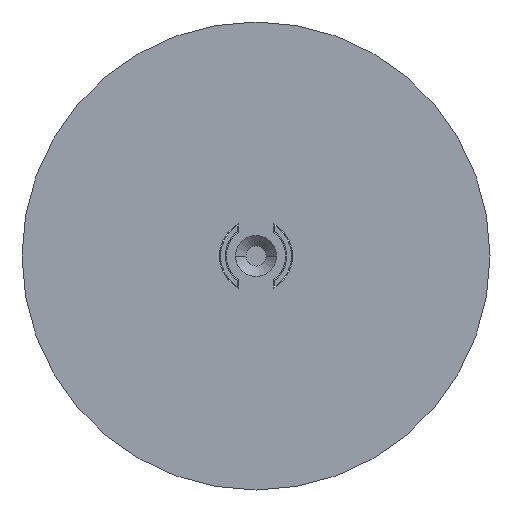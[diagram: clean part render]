
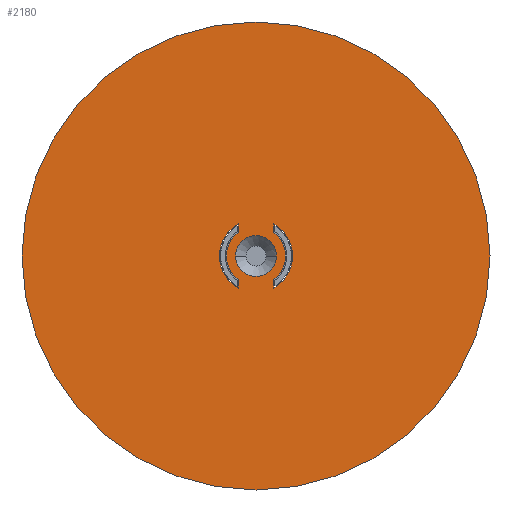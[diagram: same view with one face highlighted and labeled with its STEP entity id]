
A CAD part, front view. The second image highlights one B-rep face of the part: STEP entity #2180.
In plain terms, the highlighted planar face has unit normal (0, -1, 0).
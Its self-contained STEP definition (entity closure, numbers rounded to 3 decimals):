
#2180 = ADVANCED_FACE ( 'NONE', ( #109755, #7074, #121703, #144191 ), #41561, .F. ) ;
#4623 = CARTESIAN_POINT ( 'NONE',  ( 0., 0., 0. ) ) ;
#4926 = VERTEX_POINT ( 'NONE', #97245 ) ;
#7074 = FACE_BOUND ( 'NONE', #17031, .T. ) ;
#8190 = VERTEX_POINT ( 'NONE', #140237 ) ;
#8803 = EDGE_CURVE ( 'NONE', #145166, #25035, #22671, .T. ) ;
#9256 = EDGE_CURVE ( 'NONE', #145166, #72235, #119241, .T. ) ;
#13137 = ORIENTED_EDGE ( 'NONE', *, *, #79331, .T. ) ;
#14555 = EDGE_CURVE ( 'NONE', #51280, #140084, #143791, .T. ) ;
#16132 = ORIENTED_EDGE ( 'NONE', *, *, #147819, .T. ) ;
#16799 = DIRECTION ( 'NONE',  ( 0., 1., 0. ) ) ;
#17031 = EDGE_LOOP ( 'NONE', ( #31275, #132959 ) ) ;
#19033 = DIRECTION ( 'NONE',  ( 0., 1., 0. ) ) ;
#22671 = CIRCLE ( 'NONE', #68042, 12.5 ) ;
#23020 = ORIENTED_EDGE ( 'NONE', *, *, #9256, .T. ) ;
#23247 = AXIS2_PLACEMENT_3D ( 'NONE', #55545, #42800, #101237 ) ;
#23871 = AXIS2_PLACEMENT_3D ( 'NONE', #142620, #19033, #85654 ) ;
#25035 = VERTEX_POINT ( 'NONE', #144055 ) ;
#31275 = ORIENTED_EDGE ( 'NONE', *, *, #122305, .F. ) ;
#37340 = CARTESIAN_POINT ( 'NONE',  ( 0., 0., 0. ) ) ;
#37634 = DIRECTION ( 'NONE',  ( 1., 0., 0. ) ) ;
#39271 = CIRCLE ( 'NONE', #79886, 15.5 ) ;
#39726 = DIRECTION ( 'NONE',  ( 0., 1., 0. ) ) ;
#41561 = PLANE ( 'NONE',  #135665 ) ;
#41910 = ORIENTED_EDGE ( 'NONE', *, *, #65123, .F. ) ;
#42800 = DIRECTION ( 'NONE',  ( 0., -1., 0. ) ) ;
#44575 = EDGE_CURVE ( 'NONE', #4926, #117944, #88440, .T. ) ;
#45141 = VERTEX_POINT ( 'NONE', #95573 ) ;
#50332 = LINE ( 'NONE', #98262, #109291 ) ;
#51280 = VERTEX_POINT ( 'NONE', #144287 ) ;
#51917 = CARTESIAN_POINT ( 'NONE',  ( 0., 0., 0. ) ) ;
#52697 = ORIENTED_EDGE ( 'NONE', *, *, #44575, .F. ) ;
#53145 = DIRECTION ( 'NONE',  ( 0., 0., -1. ) ) ;
#53771 = CARTESIAN_POINT ( 'NONE',  ( -7.5, 0., 10. ) ) ;
#54614 = EDGE_CURVE ( 'NONE', #51280, #107047, #109088, .T. ) ;
#55545 = CARTESIAN_POINT ( 'NONE',  ( 0., 0., 0. ) ) ;
#56245 = EDGE_CURVE ( 'NONE', #74840, #25035, #50332, .T. ) ;
#57401 = AXIS2_PLACEMENT_3D ( 'NONE', #142343, #39726, #120628 ) ;
#60722 = VECTOR ( 'NONE', #121421, 1000. ) ;
#61832 = CARTESIAN_POINT ( 'NONE',  ( 7.5, 0., -13.565 ) ) ;
#62307 = DIRECTION ( 'NONE',  ( 0., 0., 1. ) ) ;
#64352 = CARTESIAN_POINT ( 'NONE',  ( -7.5, 0., -13.565 ) ) ;
#64771 = DIRECTION ( 'NONE',  ( 0., 1., 0. ) ) ;
#65123 = EDGE_CURVE ( 'NONE', #117944, #4926, #107585, .T. ) ;
#65947 = CARTESIAN_POINT ( 'NONE',  ( -7.5, 0., 10. ) ) ;
#68042 = AXIS2_PLACEMENT_3D ( 'NONE', #83444, #16799, #117971 ) ;
#70245 = CIRCLE ( 'NONE', #89411, 8.65 ) ;
#72235 = VERTEX_POINT ( 'NONE', #140648 ) ;
#74238 = CARTESIAN_POINT ( 'NONE',  ( -7.5, 0., -13.565 ) ) ;
#74840 = VERTEX_POINT ( 'NONE', #61832 ) ;
#79331 = EDGE_CURVE ( 'NONE', #72235, #74840, #89140, .T. ) ;
#79886 = AXIS2_PLACEMENT_3D ( 'NONE', #135258, #124756, #112051 ) ;
#80591 = CIRCLE ( 'NONE', #23247, 8.65 ) ;
#82965 = DIRECTION ( 'NONE',  ( 0., 1., 0. ) ) ;
#83444 = CARTESIAN_POINT ( 'NONE',  ( 0., 0., 0. ) ) ;
#83707 = CARTESIAN_POINT ( 'NONE',  ( 8.65, 0., 0. ) ) ;
#84086 = CARTESIAN_POINT ( 'NONE',  ( 0., 0., 99. ) ) ;
#85654 = DIRECTION ( 'NONE',  ( 0., 0., -1. ) ) ;
#87206 = CARTESIAN_POINT ( 'NONE',  ( 0., 0., 0. ) ) ;
#88440 = CIRCLE ( 'NONE', #57401, 99. ) ;
#89140 = CIRCLE ( 'NONE', #124997, 15.5 ) ;
#89411 = AXIS2_PLACEMENT_3D ( 'NONE', #4623, #128268, #37634 ) ;
#90745 = ORIENTED_EDGE ( 'NONE', *, *, #14555, .T. ) ;
#91472 = ORIENTED_EDGE ( 'NONE', *, *, #56245, .T. ) ;
#95573 = CARTESIAN_POINT ( 'NONE',  ( -7.5, 0., 13.565 ) ) ;
#97245 = CARTESIAN_POINT ( 'NONE',  ( 0., 0., -99. ) ) ;
#98262 = CARTESIAN_POINT ( 'NONE',  ( 7.5, 0., -13.565 ) ) ;
#99003 = DIRECTION ( 'NONE',  ( 0., 0., 1. ) ) ;
#99494 = CARTESIAN_POINT ( 'NONE',  ( 7.5, 0., 10. ) ) ;
#101237 = DIRECTION ( 'NONE',  ( 1., 0., 0. ) ) ;
#101280 = VERTEX_POINT ( 'NONE', #83707 ) ;
#106286 = DIRECTION ( 'NONE',  ( 0., 0., 1. ) ) ;
#107047 = VERTEX_POINT ( 'NONE', #53771 ) ;
#107283 = VECTOR ( 'NONE', #53145, 1000. ) ;
#107585 = CIRCLE ( 'NONE', #23871, 99. ) ;
#108159 = EDGE_LOOP ( 'NONE', ( #111516, #90745, #16132, #142488 ) ) ;
#109088 = CIRCLE ( 'NONE', #137746, 12.5 ) ;
#109291 = VECTOR ( 'NONE', #99003, 1000. ) ;
#109755 = FACE_OUTER_BOUND ( 'NONE', #125182, .T. ) ;
#110502 = DIRECTION ( 'NONE',  ( 0., 0., 1. ) ) ;
#111100 = DIRECTION ( 'NONE',  ( 0., 1., 0. ) ) ;
#111516 = ORIENTED_EDGE ( 'NONE', *, *, #54614, .F. ) ;
#112003 = EDGE_CURVE ( 'NONE', #45141, #107047, #122915, .T. ) ;
#112051 = DIRECTION ( 'NONE',  ( 0., 0., 1. ) ) ;
#113373 = ORIENTED_EDGE ( 'NONE', *, *, #8803, .F. ) ;
#117944 = VERTEX_POINT ( 'NONE', #84086 ) ;
#117971 = DIRECTION ( 'NONE',  ( 0., 0., 1. ) ) ;
#119241 = LINE ( 'NONE', #130450, #139931 ) ;
#120628 = DIRECTION ( 'NONE',  ( 0., 0., -1. ) ) ;
#121421 = DIRECTION ( 'NONE',  ( 0., 0., -1. ) ) ;
#121570 = DIRECTION ( 'NONE',  ( 0., 0., 1. ) ) ;
#121703 = FACE_BOUND ( 'NONE', #125534, .T. ) ;
#122305 = EDGE_CURVE ( 'NONE', #101280, #8190, #80591, .T. ) ;
#122915 = LINE ( 'NONE', #65947, #60722 ) ;
#122968 = EDGE_CURVE ( 'NONE', #8190, #101280, #70245, .T. ) ;
#124756 = DIRECTION ( 'NONE',  ( 0., 1., 0. ) ) ;
#124997 = AXIS2_PLACEMENT_3D ( 'NONE', #51917, #111100, #121570 ) ;
#125182 = EDGE_LOOP ( 'NONE', ( #52697, #41910 ) ) ;
#125534 = EDGE_LOOP ( 'NONE', ( #113373, #23020, #13137, #91472 ) ) ;
#128268 = DIRECTION ( 'NONE',  ( 0., -1., 0. ) ) ;
#130450 = CARTESIAN_POINT ( 'NONE',  ( 7.5, 0., 10. ) ) ;
#132959 = ORIENTED_EDGE ( 'NONE', *, *, #122968, .F. ) ;
#135258 = CARTESIAN_POINT ( 'NONE',  ( 0., 0., 0. ) ) ;
#135665 = AXIS2_PLACEMENT_3D ( 'NONE', #87206, #64771, #110502 ) ;
#137746 = AXIS2_PLACEMENT_3D ( 'NONE', #37340, #82965, #106286 ) ;
#139931 = VECTOR ( 'NONE', #62307, 1000. ) ;
#140084 = VERTEX_POINT ( 'NONE', #74238 ) ;
#140237 = CARTESIAN_POINT ( 'NONE',  ( -8.65, 0., 0. ) ) ;
#140648 = CARTESIAN_POINT ( 'NONE',  ( 7.5, 0., 13.565 ) ) ;
#142343 = CARTESIAN_POINT ( 'NONE',  ( 0., 0., 0. ) ) ;
#142488 = ORIENTED_EDGE ( 'NONE', *, *, #112003, .T. ) ;
#142620 = CARTESIAN_POINT ( 'NONE',  ( 0., 0., 0. ) ) ;
#143791 = LINE ( 'NONE', #64352, #107283 ) ;
#144055 = CARTESIAN_POINT ( 'NONE',  ( 7.5, 0., -10. ) ) ;
#144191 = FACE_BOUND ( 'NONE', #108159, .T. ) ;
#144287 = CARTESIAN_POINT ( 'NONE',  ( -7.5, 0., -10. ) ) ;
#145166 = VERTEX_POINT ( 'NONE', #99494 ) ;
#147819 = EDGE_CURVE ( 'NONE', #140084, #45141, #39271, .T. ) ;
